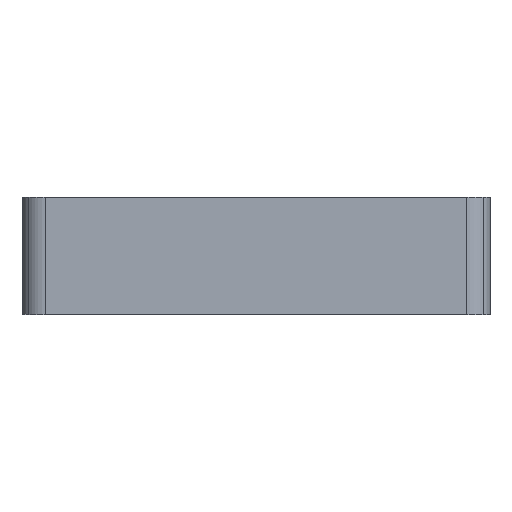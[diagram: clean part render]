
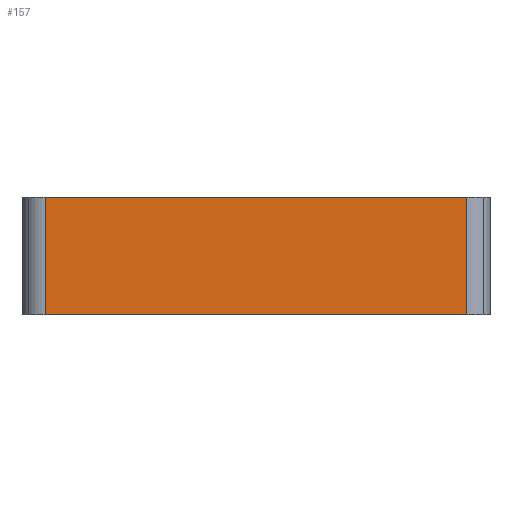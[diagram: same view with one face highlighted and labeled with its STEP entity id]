
A CAD part, front view. The second image highlights one B-rep face of the part: STEP entity #157.
In plain terms, the highlighted planar face has unit normal (0, -1, 0).
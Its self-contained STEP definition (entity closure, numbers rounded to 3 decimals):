
#157=ADVANCED_FACE('',(#337),#338,.T.);
#337=FACE_OUTER_BOUND('',#537,.T.);
#338=PLANE('',#538);
#537=EDGE_LOOP('',(#931,#932,#933,#934));
#538=AXIS2_PLACEMENT_3D('',#935,#936,#937);
#931=ORIENTED_EDGE('',*,*,#1182,.F.);
#932=ORIENTED_EDGE('',*,*,#1269,.T.);
#933=ORIENTED_EDGE('',*,*,#1216,.F.);
#934=ORIENTED_EDGE('',*,*,#1311,.F.);
#935=CARTESIAN_POINT('',(-100.0,0.0,0.0));
#936=DIRECTION('',(0.0,-1.0,0.0));
#937=DIRECTION('',(0.0,0.0,-1.0));
#1182=EDGE_CURVE('',#1414,#1416,#1417,.T.);
#1216=EDGE_CURVE('',#1468,#1470,#1471,.T.);
#1269=EDGE_CURVE('',#1414,#1470,#1546,.T.);
#1311=EDGE_CURVE('',#1416,#1468,#1603,.T.);
#1414=VERTEX_POINT('',#1722);
#1416=VERTEX_POINT('',#1724);
#1417=LINE('',#1725,#1726);
#1468=VERTEX_POINT('',#1788);
#1470=VERTEX_POINT('',#1790);
#1471=LINE('',#1791,#1792);
#1546=LINE('',#1886,#1887);
#1603=LINE('',#1959,#1960);
#1722=CARTESIAN_POINT('',(-5.0,0.0,25.0));
#1724=CARTESIAN_POINT('',(-5.0,0.0,0.0));
#1725=CARTESIAN_POINT('',(-5.0,0.0,0.0));
#1726=VECTOR('',#2072,1.0);
#1788=CARTESIAN_POINT('',(-95.0,0.0,0.0));
#1790=CARTESIAN_POINT('',(-95.0,0.0,25.0));
#1791=CARTESIAN_POINT('',(-95.0,0.0,0.0));
#1792=VECTOR('',#2126,1.0);
#1886=CARTESIAN_POINT('',(0.0,0.0,25.0));
#1887=VECTOR('',#2212,1.0);
#1959=CARTESIAN_POINT('',(0.0,0.0,0.0));
#1960=VECTOR('',#2273,1.0);
#2072=DIRECTION('',(0.0,-0.0,-1.0));
#2126=DIRECTION('',(0.0,-0.0,1.0));
#2212=DIRECTION('',(-1.0,0.0,0.0));
#2273=DIRECTION('',(-1.0,0.0,0.0));
